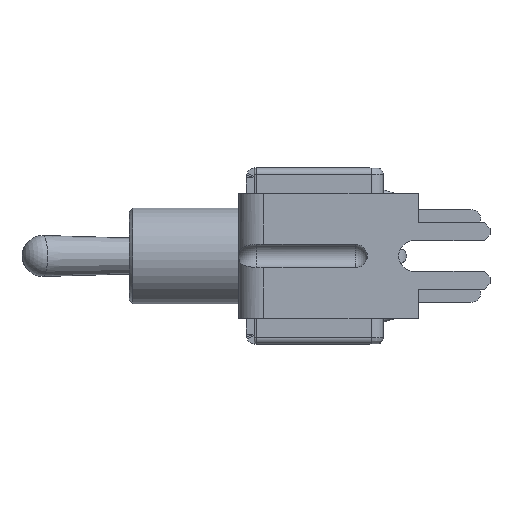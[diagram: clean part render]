
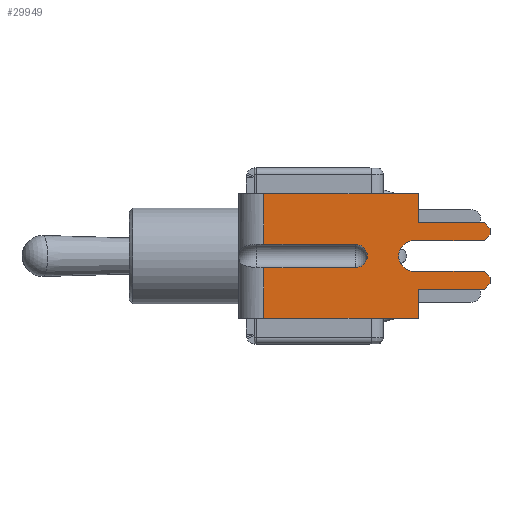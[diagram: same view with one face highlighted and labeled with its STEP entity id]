
A CAD part, left-side view. The second image highlights one B-rep face of the part: STEP entity #29949.
In plain terms, the highlighted planar face has unit normal (-1, 0, 0).
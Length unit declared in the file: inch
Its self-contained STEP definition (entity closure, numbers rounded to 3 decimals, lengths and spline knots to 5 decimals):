
#9226=DIRECTION('',(0.,0.707,0.707));
#9227=VECTOR('',#9226,0.02121);
#9228=CARTESIAN_POINT('',(-0.32,-0.43878,0.0705));
#9229=LINE('',#9228,#9227);
#9230=DIRECTION('',(0.,0.,1.));
#9231=VECTOR('',#9230,0.0165);
#9232=CARTESIAN_POINT('',(-0.32,-0.43878,0.054));
#9233=LINE('',#9232,#9231);
#9234=DIRECTION('',(0.,-0.707,0.707));
#9235=VECTOR('',#9234,0.02121);
#9236=CARTESIAN_POINT('',(-0.32,-0.42378,0.039));
#9237=LINE('',#9236,#9235);
#9238=DIRECTION('',(0.,1.,0.));
#9239=VECTOR('',#9238,0.18004);
#9240=CARTESIAN_POINT('',(-0.32,-0.42378,0.039));
#9241=LINE('',#9240,#9239);
#9242=CARTESIAN_POINT('',(-0.32,-0.24374,0.));
#9243=DIRECTION('',(1.,0.,0.));
#9244=DIRECTION('',(0.,0.,-1.));
#9245=AXIS2_PLACEMENT_3D('',#9242,#9243,#9244);
#9247=DIRECTION('',(0.,1.,0.));
#9248=VECTOR('',#9247,0.18004);
#9249=CARTESIAN_POINT('',(-0.32,-0.42378,-0.039));
#9250=LINE('',#9249,#9248);
#9251=DIRECTION('',(0.,0.707,0.707));
#9252=VECTOR('',#9251,0.02121);
#9253=CARTESIAN_POINT('',(-0.32,-0.43878,-0.054));
#9254=LINE('',#9253,#9252);
#9255=DIRECTION('',(0.,0.,1.));
#9256=VECTOR('',#9255,0.0165);
#9257=CARTESIAN_POINT('',(-0.32,-0.43878,-0.0705));
#9258=LINE('',#9257,#9256);
#9259=DIRECTION('',(0.,-0.707,0.707));
#9260=VECTOR('',#9259,0.02121);
#9261=CARTESIAN_POINT('',(-0.32,-0.42378,-0.0855));
#9262=LINE('',#9261,#9260);
#9263=DIRECTION('',(0.,-1.,0.));
#9264=VECTOR('',#9263,0.169);
#9265=CARTESIAN_POINT('',(-0.32,-0.25478,-0.0855));
#9266=LINE('',#9265,#9264);
#9267=DIRECTION('',(0.,0.,1.));
#9268=VECTOR('',#9267,0.0745);
#9269=CARTESIAN_POINT('',(-0.32,-0.25478,-0.16));
#9270=LINE('',#9269,#9268);
#9271=DIRECTION('',(0.,-1.,0.));
#9272=VECTOR('',#9271,0.39503);
#9273=CARTESIAN_POINT('',(-0.32,0.14025,-0.16));
#9274=LINE('',#9273,#9272);
#9275=DIRECTION('',(0.,1.,0.));
#9276=VECTOR('',#9275,0.235);
#9277=CARTESIAN_POINT('',(-0.32,-0.09475,-0.02993));
#9278=LINE('',#9277,#9276);
#9279=DIRECTION('',(0.,1.,0.));
#9280=VECTOR('',#9279,0.235);
#9281=CARTESIAN_POINT('',(-0.32,-0.09475,0.02993));
#9282=LINE('',#9281,#9280);
#9283=DIRECTION('',(0.,1.,0.));
#9284=VECTOR('',#9283,0.39503);
#9285=CARTESIAN_POINT('',(-0.32,-0.25478,0.16));
#9286=LINE('',#9285,#9284);
#9287=DIRECTION('',(0.,0.,1.));
#9288=VECTOR('',#9287,0.0745);
#9289=CARTESIAN_POINT('',(-0.32,-0.25478,0.0855));
#9290=LINE('',#9289,#9288);
#9291=DIRECTION('',(0.,1.,0.));
#9292=VECTOR('',#9291,0.169);
#9293=CARTESIAN_POINT('',(-0.32,-0.42378,0.0855));
#9294=LINE('',#9293,#9292);
#9351=DIRECTION('',(0.,0.,-1.));
#9352=VECTOR('',#9351,0.13007);
#9353=CARTESIAN_POINT('',(-0.32,0.14025,-0.02993));
#9354=LINE('',#9353,#9352);
#9365=DIRECTION('',(0.,0.,-1.));
#9366=VECTOR('',#9365,0.13007);
#9367=CARTESIAN_POINT('',(-0.32,0.14025,0.16));
#9368=LINE('',#9367,#9366);
#9432=CARTESIAN_POINT('',(-0.32,-0.09475,0.));
#9433=DIRECTION('',(1.,0.,0.));
#9434=DIRECTION('',(0.,0.,1.));
#9435=AXIS2_PLACEMENT_3D('',#9432,#9433,#9434);
#16365=CARTESIAN_POINT('',(-0.32,-0.25478,-0.16));
#16367=VERTEX_POINT('',#16365);
#16393=CARTESIAN_POINT('',(-0.32,-0.25478,0.16));
#16394=CARTESIAN_POINT('',(-0.32,0.14025,0.16));
#16395=VERTEX_POINT('',#16393);
#16396=VERTEX_POINT('',#16394);
#16397=CARTESIAN_POINT('',(-0.32,0.14025,-0.16));
#16398=VERTEX_POINT('',#16397);
#16409=CARTESIAN_POINT('',(-0.32,-0.09475,-0.02993));
#16410=CARTESIAN_POINT('',(-0.32,0.14025,-0.02993));
#16411=VERTEX_POINT('',#16409);
#16412=VERTEX_POINT('',#16410);
#16413=CARTESIAN_POINT('',(-0.32,-0.09475,0.02993));
#16414=CARTESIAN_POINT('',(-0.32,0.14025,0.02993));
#16415=VERTEX_POINT('',#16413);
#16416=VERTEX_POINT('',#16414);
#16461=CARTESIAN_POINT('',(-0.32,-0.25478,-0.0855));
#16463=VERTEX_POINT('',#16461);
#16465=CARTESIAN_POINT('',(-0.32,-0.25478,0.0855));
#16467=VERTEX_POINT('',#16465);
#16473=CARTESIAN_POINT('',(-0.32,-0.24374,-0.039));
#16474=CARTESIAN_POINT('',(-0.32,-0.24374,0.039));
#16475=VERTEX_POINT('',#16473);
#16476=VERTEX_POINT('',#16474);
#16485=CARTESIAN_POINT('',(-0.32,-0.43878,0.0705));
#16486=CARTESIAN_POINT('',(-0.32,-0.42378,0.0855));
#16487=VERTEX_POINT('',#16485);
#16488=VERTEX_POINT('',#16486);
#16493=CARTESIAN_POINT('',(-0.32,-0.42378,0.039));
#16494=CARTESIAN_POINT('',(-0.32,-0.43878,0.054));
#16495=VERTEX_POINT('',#16493);
#16496=VERTEX_POINT('',#16494);
#16501=CARTESIAN_POINT('',(-0.32,-0.43878,-0.054));
#16502=CARTESIAN_POINT('',(-0.32,-0.42378,-0.039));
#16503=VERTEX_POINT('',#16501);
#16504=VERTEX_POINT('',#16502);
#16509=CARTESIAN_POINT('',(-0.32,-0.42378,-0.0855));
#16510=CARTESIAN_POINT('',(-0.32,-0.43878,-0.0705));
#16511=VERTEX_POINT('',#16509);
#16512=VERTEX_POINT('',#16510);
#29903=CARTESIAN_POINT('',(-0.32,0.47594,0.));
#29904=DIRECTION('',(-1.,0.,0.));
#29905=DIRECTION('',(0.,1.,0.));
#29906=AXIS2_PLACEMENT_3D('',#29903,#29904,#29905);
#29907=PLANE('',#29906);
#29908=ORIENTED_EDGE('',*,*,#29893,.F.);
#29910=ORIENTED_EDGE('',*,*,#29909,.F.);
#29912=ORIENTED_EDGE('',*,*,#29911,.F.);
#29914=ORIENTED_EDGE('',*,*,#29913,.T.);
#29916=ORIENTED_EDGE('',*,*,#29915,.F.);
#29918=ORIENTED_EDGE('',*,*,#29917,.F.);
#29920=ORIENTED_EDGE('',*,*,#29919,.F.);
#29922=ORIENTED_EDGE('',*,*,#29921,.F.);
#29924=ORIENTED_EDGE('',*,*,#29923,.F.);
#29926=ORIENTED_EDGE('',*,*,#29925,.F.);
#29928=ORIENTED_EDGE('',*,*,#29927,.F.);
#29930=ORIENTED_EDGE('',*,*,#29929,.F.);
#29932=ORIENTED_EDGE('',*,*,#29931,.F.);
#29934=ORIENTED_EDGE('',*,*,#29933,.F.);
#29936=ORIENTED_EDGE('',*,*,#29935,.F.);
#29938=ORIENTED_EDGE('',*,*,#29937,.T.);
#29940=ORIENTED_EDGE('',*,*,#29939,.F.);
#29942=ORIENTED_EDGE('',*,*,#29941,.F.);
#29944=ORIENTED_EDGE('',*,*,#29943,.F.);
#29946=ORIENTED_EDGE('',*,*,#29945,.F.);
#29947=EDGE_LOOP('',(#29908,#29910,#29912,#29914,#29916,#29918,#29920,#29922,
#29924,#29926,#29928,#29930,#29932,#29934,#29936,#29938,#29940,#29942,#29944,
#29946));
#29948=FACE_OUTER_BOUND('',#29947,.F.);
#29949=ADVANCED_FACE('',(#29948),#29907,.T.);
#9246=CIRCLE('',#9245,0.039);
#9436=CIRCLE('',#9435,0.02993);
#29893=EDGE_CURVE('',#16487,#16488,#9229,.T.);
#29909=EDGE_CURVE('',#16496,#16487,#9233,.T.);
#29911=EDGE_CURVE('',#16495,#16496,#9237,.T.);
#29913=EDGE_CURVE('',#16495,#16476,#9241,.T.);
#29915=EDGE_CURVE('',#16475,#16476,#9246,.T.);
#29917=EDGE_CURVE('',#16504,#16475,#9250,.T.);
#29919=EDGE_CURVE('',#16503,#16504,#9254,.T.);
#29921=EDGE_CURVE('',#16512,#16503,#9258,.T.);
#29923=EDGE_CURVE('',#16511,#16512,#9262,.T.);
#29925=EDGE_CURVE('',#16463,#16511,#9266,.T.);
#29927=EDGE_CURVE('',#16367,#16463,#9270,.T.);
#29929=EDGE_CURVE('',#16398,#16367,#9274,.T.);
#29931=EDGE_CURVE('',#16412,#16398,#9354,.T.);
#29933=EDGE_CURVE('',#16411,#16412,#9278,.T.);
#29935=EDGE_CURVE('',#16415,#16411,#9436,.T.);
#29937=EDGE_CURVE('',#16415,#16416,#9282,.T.);
#29939=EDGE_CURVE('',#16396,#16416,#9368,.T.);
#29941=EDGE_CURVE('',#16395,#16396,#9286,.T.);
#29943=EDGE_CURVE('',#16467,#16395,#9290,.T.);
#29945=EDGE_CURVE('',#16488,#16467,#9294,.T.);
